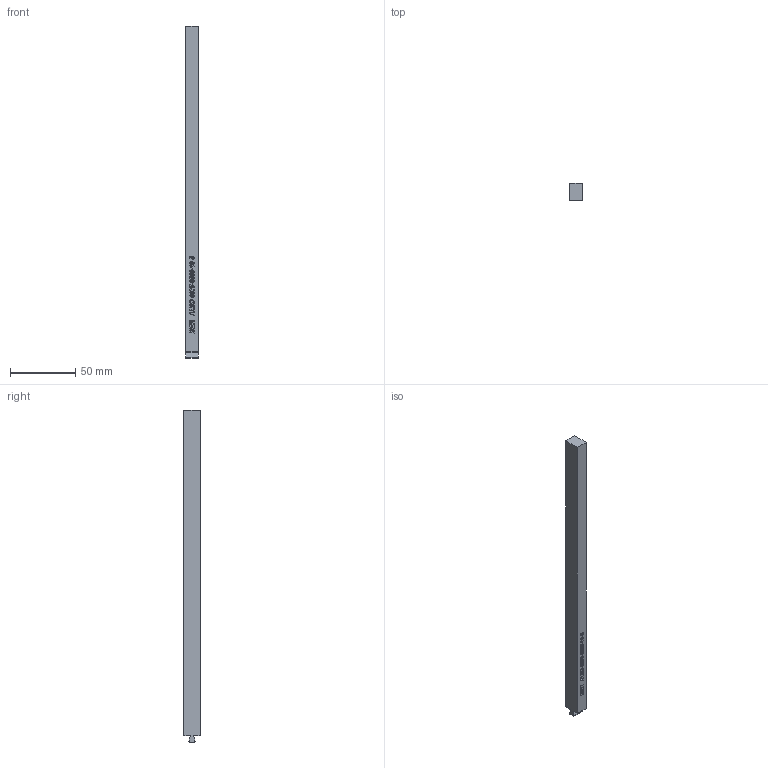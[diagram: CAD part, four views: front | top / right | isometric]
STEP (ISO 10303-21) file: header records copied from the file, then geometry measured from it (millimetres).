
FILE_DESCRIPTION (( 'STEP AP203' ), '1' );
FILE_NAME ('ALBD-0375-0500-10-5.STEP', '2021-01-11T20:21:40', ( '' ), ( '' ), 'SwSTEP 2.0', 'SolidWorks 2020', '' );
FILE_SCHEMA (( 'CONFIG_CONTROL_DESIGN' ));
Length unit declared in the file: inch
Products named in the file (1): ALBD-0375-0500-10-5
Bounding box: 9.53 x 12.7 x 254 mm (x, y, z)
Volume: 30305.2 mm3; surface area: 11506.3 mm2
Topology: 1 solids, 1 shells, 198 faces, 492 edges, 328 vertices
Faces by surface type: plane 145, bspline 53
Entity records: 7809 total; most frequent: CARTESIAN_POINT 3364, ORIENTED_EDGE 984, DIRECTION 678, EDGE_CURVE 492, LINE 386, VECTOR 386, VERTEX_POINT 328, EDGE_LOOP 230
